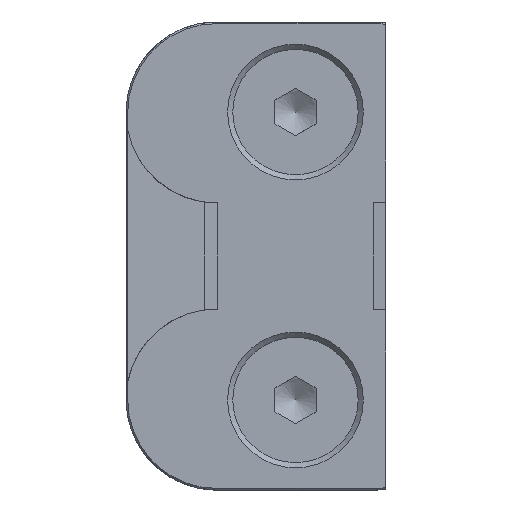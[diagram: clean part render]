
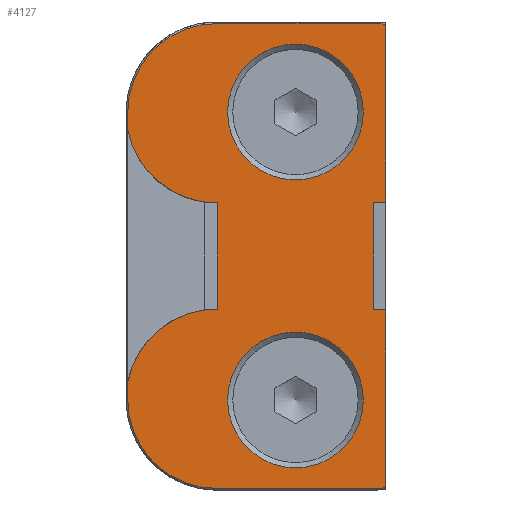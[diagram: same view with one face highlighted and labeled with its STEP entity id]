
A CAD part, front view. The second image highlights one B-rep face of the part: STEP entity #4127.
In plain terms, the highlighted planar face has unit normal (0, -1, 0).
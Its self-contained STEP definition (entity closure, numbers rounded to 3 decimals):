
#3771=CARTESIAN_POINT('',(11.,-48.8,-28.159));
#3772=VERTEX_POINT('',#3771);
#3810=CARTESIAN_POINT('',(11.,-48.8,28.159));
#3811=VERTEX_POINT('',#3810);
#3825=CARTESIAN_POINT('',(11.,-48.8,6.539));
#3826=VERTEX_POINT('',#3825);
#3827=CARTESIAN_POINT('',(11.,-48.8,6.539));
#3828=DIRECTION('',(0.0,0.0,1.0));
#3829=VECTOR('',#3828,21.619);
#3830=LINE('',#3827,#3829);
#3831=EDGE_CURVE('',#3826,#3811,#3830,.T.);
#3849=CARTESIAN_POINT('',(11.,-48.8,-6.539));
#3850=VERTEX_POINT('',#3849);
#3857=CARTESIAN_POINT('',(11.,-48.8,-28.159));
#3858=DIRECTION('',(0.0,0.0,1.0));
#3859=VECTOR('',#3858,21.619);
#3860=LINE('',#3857,#3859);
#3861=EDGE_CURVE('',#3772,#3850,#3860,.T.);
#3872=CARTESIAN_POINT('',(9.6,-48.8,-28.25));
#3873=VERTEX_POINT('',#3872);
#3874=CARTESIAN_POINT('',(9.6,-48.8,-17.45));
#3875=DIRECTION('',(0.,1.0,0.));
#3876=DIRECTION('',(0.707,0.,-0.707));
#3877=AXIS2_PLACEMENT_3D('',#3874,#3875,#3876);
#3878=CIRCLE('',#3877,10.8);
#3879=EDGE_CURVE('',#3772,#3873,#3878,.T.);
#3936=CARTESIAN_POINT('',(9.5,-48.8,-6.45));
#3937=VERTEX_POINT('',#3936);
#3944=CARTESIAN_POINT('',(9.6,-48.8,-17.45));
#3945=DIRECTION('',(0.0,1.0,0.0));
#3946=DIRECTION('',(0.707,0.0,-0.707));
#3947=AXIS2_PLACEMENT_3D('',#3944,#3945,#3946);
#3948=CIRCLE('',#3947,11.);
#3949=EDGE_CURVE('',#3937,#3850,#3948,.T.);
#3985=CARTESIAN_POINT('',(9.5,-48.8,6.45));
#3986=VERTEX_POINT('',#3985);
#3987=CARTESIAN_POINT('',(9.6,-48.8,17.45));
#3988=DIRECTION('',(0.0,-1.0,0.0));
#3989=DIRECTION('',(0.009,0.0,1.));
#3990=AXIS2_PLACEMENT_3D('',#3987,#3988,#3989);
#3991=CIRCLE('',#3990,11.0);
#3992=EDGE_CURVE('',#3986,#3826,#3991,.T.);
#4004=CARTESIAN_POINT('',(0.,-48.8,0.0));
#4005=DIRECTION('',(0.0,-1.0,0.0));
#4006=DIRECTION('',(0.0,0.0,1.0));
#4007=AXIS2_PLACEMENT_3D('',#4004,#4005,#4006);
#4008=PLANE('',#4007);
#4009=ORIENTED_EDGE('',*,*,#3861,.T.);
#4010=ORIENTED_EDGE('',*,*,#3949,.F.);
#4011=CARTESIAN_POINT('',(9.5,-48.8,-6.45));
#4012=DIRECTION('',(0.0,0.0,1.0));
#4013=VECTOR('',#4012,12.901);
#4014=LINE('',#4011,#4013);
#4015=EDGE_CURVE('',#3937,#3986,#4014,.T.);
#4016=ORIENTED_EDGE('',*,*,#4015,.T.);
#4017=ORIENTED_EDGE('',*,*,#3992,.T.);
#4018=ORIENTED_EDGE('',*,*,#3831,.T.);
#4019=CARTESIAN_POINT('',(9.6,-48.8,28.25));
#4020=VERTEX_POINT('',#4019);
#4021=CARTESIAN_POINT('',(9.6,-48.8,17.45));
#4022=DIRECTION('',(0.,1.0,0.));
#4023=DIRECTION('',(0.707,0.,0.707));
#4024=AXIS2_PLACEMENT_3D('',#4021,#4022,#4023);
#4025=CIRCLE('',#4024,10.8);
#4026=EDGE_CURVE('',#4020,#3811,#4025,.T.);
#4027=ORIENTED_EDGE('',*,*,#4026,.F.);
#4028=CARTESIAN_POINT('',(-9.6,-48.8,28.25));
#4029=VERTEX_POINT('',#4028);
#4030=CARTESIAN_POINT('',(-9.6,-48.8,28.25));
#4031=DIRECTION('',(1.0,0.0,0.0));
#4032=VECTOR('',#4031,19.2);
#4033=LINE('',#4030,#4032);
#4034=EDGE_CURVE('',#4029,#4020,#4033,.T.);
#4035=ORIENTED_EDGE('',*,*,#4034,.F.);
#4036=CARTESIAN_POINT('',(-20.4,-48.8,17.45));
#4037=VERTEX_POINT('',#4036);
#4038=CARTESIAN_POINT('',(-9.6,-48.8,17.45));
#4039=DIRECTION('',(0.,1.0,0.));
#4040=DIRECTION('',(-0.707,0.,0.707));
#4041=AXIS2_PLACEMENT_3D('',#4038,#4039,#4040);
#4042=CIRCLE('',#4041,10.8);
#4043=EDGE_CURVE('',#4037,#4029,#4042,.T.);
#4044=ORIENTED_EDGE('',*,*,#4043,.F.);
#4045=CARTESIAN_POINT('',(-20.4,-48.8,15.362));
#4046=VERTEX_POINT('',#4045);
#4047=CARTESIAN_POINT('',(-20.4,-48.8,17.45));
#4048=DIRECTION('',(0.0,0.0,-1.0));
#4049=VECTOR('',#4048,2.088);
#4050=LINE('',#4047,#4049);
#4051=EDGE_CURVE('',#4037,#4046,#4050,.T.);
#4052=ORIENTED_EDGE('',*,*,#4051,.T.);
#4053=CARTESIAN_POINT('',(-9.5,-48.8,6.45));
#4054=VERTEX_POINT('',#4053);
#4055=CARTESIAN_POINT('',(-9.6,-48.8,17.45));
#4056=DIRECTION('',(0.0,-1.0,0.0));
#4057=DIRECTION('',(1.0,0.0,0.0));
#4058=AXIS2_PLACEMENT_3D('',#4055,#4056,#4057);
#4059=CIRCLE('',#4058,11.0);
#4060=EDGE_CURVE('',#4046,#4054,#4059,.T.);
#4061=ORIENTED_EDGE('',*,*,#4060,.T.);
#4062=CARTESIAN_POINT('',(-9.5,-48.8,-6.45));
#4063=VERTEX_POINT('',#4062);
#4064=CARTESIAN_POINT('',(-9.5,-48.8,6.45));
#4065=DIRECTION('',(0.0,0.0,-1.0));
#4066=VECTOR('',#4065,12.901);
#4067=LINE('',#4064,#4066);
#4068=EDGE_CURVE('',#4054,#4063,#4067,.T.);
#4069=ORIENTED_EDGE('',*,*,#4068,.T.);
#4070=CARTESIAN_POINT('',(-20.4,-48.8,-15.362));
#4071=VERTEX_POINT('',#4070);
#4072=CARTESIAN_POINT('',(-9.6,-48.8,-17.45));
#4073=DIRECTION('',(0.0,-1.0,0.0));
#4074=DIRECTION('',(-0.009,0.0,-1.));
#4075=AXIS2_PLACEMENT_3D('',#4072,#4073,#4074);
#4076=CIRCLE('',#4075,11.0);
#4077=EDGE_CURVE('',#4063,#4071,#4076,.T.);
#4078=ORIENTED_EDGE('',*,*,#4077,.T.);
#4079=CARTESIAN_POINT('',(-20.4,-48.8,-17.45));
#4080=VERTEX_POINT('',#4079);
#4081=CARTESIAN_POINT('',(-20.4,-48.8,-15.362));
#4082=DIRECTION('',(0.0,0.0,-1.0));
#4083=VECTOR('',#4082,2.088);
#4084=LINE('',#4081,#4083);
#4085=EDGE_CURVE('',#4071,#4080,#4084,.T.);
#4086=ORIENTED_EDGE('',*,*,#4085,.T.);
#4087=CARTESIAN_POINT('',(-9.6,-48.8,-28.25));
#4088=VERTEX_POINT('',#4087);
#4089=CARTESIAN_POINT('',(-9.6,-48.8,-17.45));
#4090=DIRECTION('',(0.,1.0,0.));
#4091=DIRECTION('',(-0.707,0.,-0.707));
#4092=AXIS2_PLACEMENT_3D('',#4089,#4090,#4091);
#4093=CIRCLE('',#4092,10.8);
#4094=EDGE_CURVE('',#4088,#4080,#4093,.T.);
#4095=ORIENTED_EDGE('',*,*,#4094,.F.);
#4096=CARTESIAN_POINT('',(9.6,-48.8,-28.25));
#4097=DIRECTION('',(-1.0,0.0,0.0));
#4098=VECTOR('',#4097,19.2);
#4099=LINE('',#4096,#4098);
#4100=EDGE_CURVE('',#3873,#4088,#4099,.T.);
#4101=ORIENTED_EDGE('',*,*,#4100,.F.);
#4102=ORIENTED_EDGE('',*,*,#3879,.F.);
#4103=EDGE_LOOP('',(#4009,#4010,#4016,#4017,#4018,#4027,#4035,#4044,#4052,#4061,#4069,#4078,#4086,#4095,#4101,#4102));
#4104=FACE_OUTER_BOUND('',#4103,.T.);
#4105=CARTESIAN_POINT('',(-8.25,-48.8,17.5));
#4106=VERTEX_POINT('',#4105);
#4107=CARTESIAN_POINT('',(0.,-48.8,17.5));
#4108=DIRECTION('',(0.0,1.0,0.0));
#4109=DIRECTION('',(1.0,0.0,0.0));
#4110=AXIS2_PLACEMENT_3D('',#4107,#4108,#4109);
#4111=CIRCLE('',#4110,8.25);
#4112=EDGE_CURVE('',#4106,#4106,#4111,.T.);
#4113=ORIENTED_EDGE('',*,*,#4112,.T.);
#4114=EDGE_LOOP('',(#4113));
#4115=FACE_BOUND('',#4114,.T.);
#4116=CARTESIAN_POINT('',(-8.25,-48.8,-17.5));
#4117=VERTEX_POINT('',#4116);
#4118=CARTESIAN_POINT('',(0.,-48.8,-17.5));
#4119=DIRECTION('',(0.0,1.0,0.0));
#4120=DIRECTION('',(1.0,0.0,0.0));
#4121=AXIS2_PLACEMENT_3D('',#4118,#4119,#4120);
#4122=CIRCLE('',#4121,8.25);
#4123=EDGE_CURVE('',#4117,#4117,#4122,.T.);
#4124=ORIENTED_EDGE('',*,*,#4123,.T.);
#4125=EDGE_LOOP('',(#4124));
#4126=FACE_BOUND('',#4125,.T.);
#4127=ADVANCED_FACE('',(#4104,#4115,#4126),#4008,.T.);
